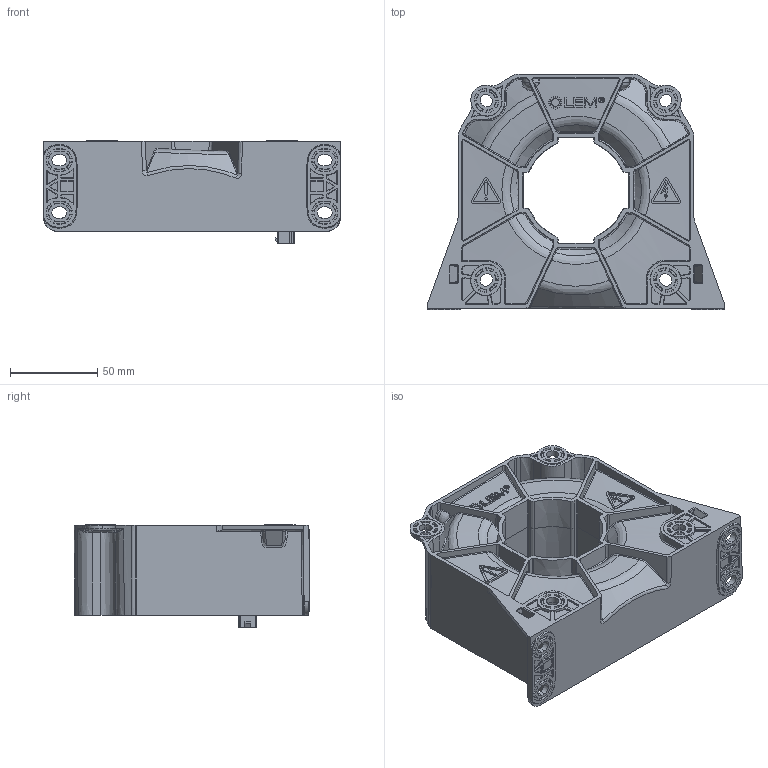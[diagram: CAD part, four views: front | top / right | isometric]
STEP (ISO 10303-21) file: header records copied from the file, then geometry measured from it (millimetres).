
FILE_DESCRIPTION(('Creo Elements/Direct Modeling STEP Export'),'2;1');
FILE_NAME('SP 23.stp','2016-09-01T10:36:45',(''),(''),'PTC Creo Elements/Direct Modeling STEP processor for AP214 (Solid Model)','PTC Creo Elements/Direct Modeling 19.0B 21-Mar-2015 (C) Parametric Technology GmbH','');
FILE_SCHEMA(('AUTOMOTIVE_DESIGN { 1 0 10303 214 1 1 1 1 }'));
Products named in the file (1): LF_2010_OUTLINE_G16043C_SP23
Bounding box: 170 x 135 x 58.9 mm (x, y, z)
Volume: 616592.2 mm3; surface area: 91189.1 mm2
Topology: 1 solids, 8 shells, 3144 faces, 7743 edges, 4731 vertices
Faces by surface type: bspline 1357, plane 933, cylinder 430, cone 200, torus 160, extrusion 40, sphere 24
Entity records: 248898 total; most frequent: CARTESIAN_POINT 189191, ORIENTED_EDGE 15430, EDGE_CURVE 7715, DIRECTION 7606, VERTEX_POINT 4731, EDGE_LOOP 3306, FACE_OUTER_BOUND 3144, ADVANCED_FACE 3144
